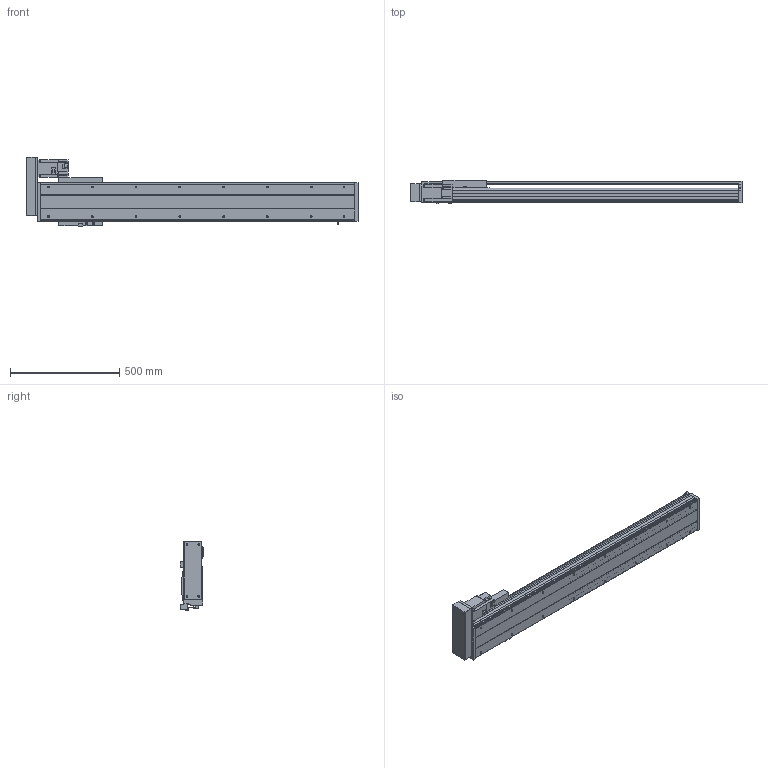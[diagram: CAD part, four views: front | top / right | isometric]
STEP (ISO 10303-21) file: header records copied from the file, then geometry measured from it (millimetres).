
FILE_DESCRIPTION(/* description */ ('STEP AP214'),/* implementation_level */ '2;1');
FILE_NAME(/* name */ 'PSS200-L10-S1100-BL-T75-C1-N(0)',/* time_stamp */ '2022-06-06T04:50:44+02:00',/* author */ ('License CC BY-ND 4.0'),/* organization */ ('CADENAS'),/* preprocessor_version */ 'ST-DEVELOPER v18.102',/* originating_system */ 'PARTsolutions',/* authorisation */ ' ');
FILE_SCHEMA (('AUTOMOTIVE_DESIGN {1 0 10303 214 3 1 1}'));
Length unit declared in the file: millimetre
Products named in the file (8): PSS200-L10-S1100-BL-T75-C1-N(0); PSS200-S1100-BL-N_S; T75-p1; PSS200BL-N_h; PSS200-N_sensor; PSS200-BL-C1-N_sl; PSS200-N_Q; PSS200-S1100-BL-C1-N_body
Assembly tree (9 placements, depth 2):
  PSS200-L10-S1100-BL-T75-C1-N(0)
    PSS200-S1100-BL-N_S
    T75-p1
    PSS200BL-N_h
    PSS200-N_sensor  x3
    PSS200-BL-C1-N_sl
    PSS200-N_Q
    PSS200-S1100-BL-C1-N_body
Bounding box: 1516.85 x 105.3 x 317.86 mm (x, y, z)
Volume: 9866094.7 mm3; surface area: 2360936.5 mm2
Topology: 9 solids, 9 shells, 612 faces, 1633 edges, 1078 vertices
Faces by surface type: plane 466, cylinder 118, cone 24, sphere 4
Full cylindrical faces by diameter (mm): 4 x2, 4.5 x4, 6 x7, 6.647 x20, 7.4 x4, 8 x8, 10 x6, 25 x1, 40 x1, 67 x1
Entity records: 16941 total; most frequent: CARTESIAN_POINT 2907, DIRECTION 2812, ORIENTED_EDGE 2762, EDGE_CURVE 1381, LINE 1090, VECTOR 1090, VERTEX_POINT 956, AXIS2_PLACEMENT_3D 861
